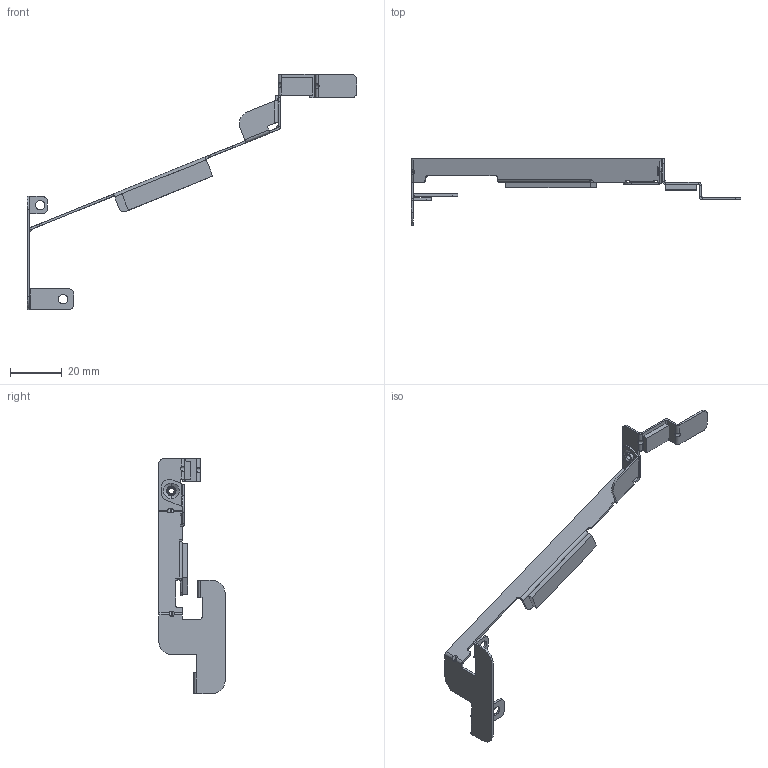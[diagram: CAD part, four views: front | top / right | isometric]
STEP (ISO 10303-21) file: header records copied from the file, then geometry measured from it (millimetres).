
FILE_DESCRIPTION((''),'2;1');
FILE_NAME('AIR_BAFFLE_BKT_ASM_CSGR_01_ASM','2019-02-14T',('calvi'),(''),'CREO PARAMETRIC BY PTC INC, 2015480','CREO PARAMETRIC BY PTC INC, 2015480','');
FILE_SCHEMA(('CONFIG_CONTROL_DESIGN'));
Length unit declared in the file: millimetre
Products named in the file (5): MSBR-4; MSBR-3; MSBR-2; MSBR-1; AIR_BAFFLE_BKT_ASM_CSGR_01_ASM
Assembly tree (4 placements, depth 2):
  AIR_BAFFLE_BKT_ASM_CSGR_01_ASM
    MSBR-4
    MSBR-3
    MSBR-2
    MSBR-1
Bounding box: 126.86 x 25.5 x 90.5 mm (x, y, z)
Volume: 2737 mm3; surface area: 6676.2 mm2
Topology: 4 solids, 4 shells, 203 faces, 494 edges, 298 vertices
Faces by surface type: plane 117, cylinder 71, cone 12, torus 2, bspline 1
Entity records: 7630 total; most frequent: CARTESIAN_POINT 1265, DIRECTION 990, ORIENTED_EDGE 988, EDGE_CURVE 494, VECTOR 336, LINE 336, AXIS2_PLACEMENT_3D 327, VERTEX_POINT 298
